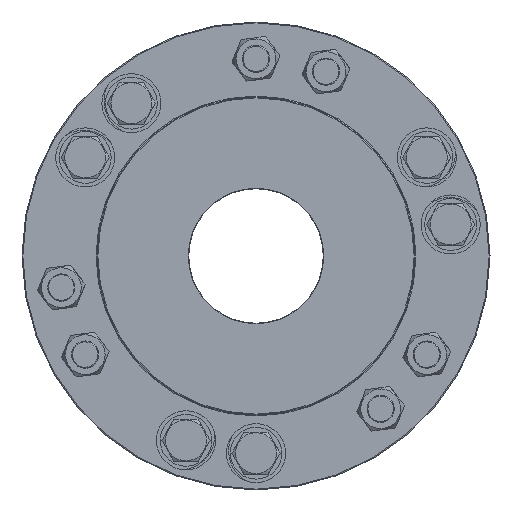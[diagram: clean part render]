
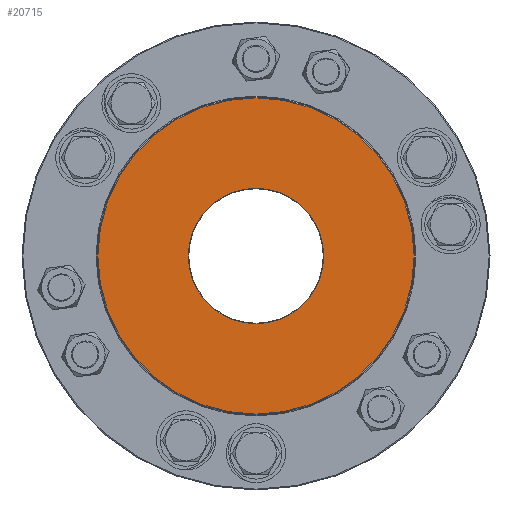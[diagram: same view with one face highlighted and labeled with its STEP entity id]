
A CAD part, left-side view. The second image highlights one B-rep face of the part: STEP entity #20715.
In plain terms, the highlighted planar face has unit normal (-1, 0, 0).
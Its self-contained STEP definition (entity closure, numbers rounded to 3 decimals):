
#1020 = CARTESIAN_POINT ( 'NONE',  ( -400., 0., 0. ) ) ;
#2515 = EDGE_CURVE ( 'Defeatured_0_141+Defeatured_0_165+Defeatured_0_165+Defeatured_0_165', #48973, #62268, #21692, .T. ) ;
#3146 = ORIENTED_EDGE ( 'NONE', *, *, #2515, .T. ) ;
#4627 = DIRECTION ( 'NONE',  ( -1., 0., 0. ) ) ;
#4926 = AXIS2_PLACEMENT_3D ( 'NONE', #14977, #4627, #14556 ) ;
#6273 = DIRECTION ( 'NONE',  ( 1., 0., 0. ) ) ;
#12876 = EDGE_CURVE ( 'Defeatured_0_141+Defeatured_0_2392+Defeatured_0_2392+Defeatured_0_2392', #54828, #20924, #49681, .T. ) ;
#13105 = CARTESIAN_POINT ( 'NONE',  ( -400., 64.519, 37.25 ) ) ;
#14556 = DIRECTION ( 'NONE',  ( 0., 0.866, 0.5 ) ) ;
#14977 = CARTESIAN_POINT ( 'NONE',  ( -400., 0., 0. ) ) ;
#15258 = AXIS2_PLACEMENT_3D ( 'NONE', #27234, #6273, #32007 ) ;
#16140 = EDGE_LOOP ( 'NONE', ( #18168, #39319 ) ) ;
#17625 = AXIS2_PLACEMENT_3D ( 'NONE', #1020, #36152, #45557 ) ;
#18168 = ORIENTED_EDGE ( 'NONE', *, *, #57243, .T. ) ;
#18474 = DIRECTION ( 'NONE',  ( 0., 0.866, 0.5 ) ) ;
#18637 = DIRECTION ( 'NONE',  ( -1., 0., 0. ) ) ;
#18652 = EDGE_LOOP ( 'NONE', ( #3146, #48465 ) ) ;
#20715 = ADVANCED_FACE ( 'Defeatured_0_141', ( #43039, #65063 ), #23987, .T. ) ;
#20924 = VERTEX_POINT ( 'NONE', #13105 ) ;
#21692 = CIRCLE ( 'NONE', #54900, 174. ) ;
#23987 = PLANE ( 'NONE',  #45636 ) ;
#27234 = CARTESIAN_POINT ( 'NONE',  ( -400., 0., 0. ) ) ;
#32007 = DIRECTION ( 'NONE',  ( 0., 0.866, 0.5 ) ) ;
#36152 = DIRECTION ( 'NONE',  ( 1., 0., 0. ) ) ;
#36243 = CIRCLE ( 'NONE', #15258, 74.5 ) ;
#39319 = ORIENTED_EDGE ( 'NONE', *, *, #12876, .T. ) ;
#43039 = FACE_BOUND ( 'NONE', #16140, .T. ) ;
#44076 = DIRECTION ( 'NONE',  ( -1., 0., 0. ) ) ;
#45557 = DIRECTION ( 'NONE',  ( 0., 0.866, 0.5 ) ) ;
#45636 = AXIS2_PLACEMENT_3D ( 'NONE', #48469, #44076, #18474 ) ;
#48465 = ORIENTED_EDGE ( 'NONE', *, *, #52545, .T. ) ;
#48469 = CARTESIAN_POINT ( 'NONE',  ( -400., 87.5, -151.554 ) ) ;
#48649 = DIRECTION ( 'NONE',  ( 0., 0.866, 0.5 ) ) ;
#48973 = VERTEX_POINT ( 'NONE', #64150 ) ;
#49681 = CIRCLE ( 'NONE', #17625, 74.5 ) ;
#50248 = CARTESIAN_POINT ( 'NONE',  ( -400., -64.519, -37.25 ) ) ;
#52545 = EDGE_CURVE ( 'Defeatured_0_141+Defeatured_0_165+Defeatured_0_165+Defeatured_0_165', #62268, #48973, #64568, .T. ) ;
#54828 = VERTEX_POINT ( 'NONE', #50248 ) ;
#54900 = AXIS2_PLACEMENT_3D ( 'NONE', #63542, #18637, #48649 ) ;
#57243 = EDGE_CURVE ( 'Defeatured_0_141+Defeatured_0_2392+Defeatured_0_2392+Defeatured_0_2392', #20924, #54828, #36243, .T. ) ;
#60628 = CARTESIAN_POINT ( 'NONE',  ( -400., -150.688, -87. ) ) ;
#62268 = VERTEX_POINT ( 'NONE', #60628 ) ;
#63542 = CARTESIAN_POINT ( 'NONE',  ( -400., 0., 0. ) ) ;
#64150 = CARTESIAN_POINT ( 'NONE',  ( -400., 150.688, 87. ) ) ;
#64568 = CIRCLE ( 'NONE', #4926, 174. ) ;
#65063 = FACE_OUTER_BOUND ( 'NONE', #18652, .T. ) ;
